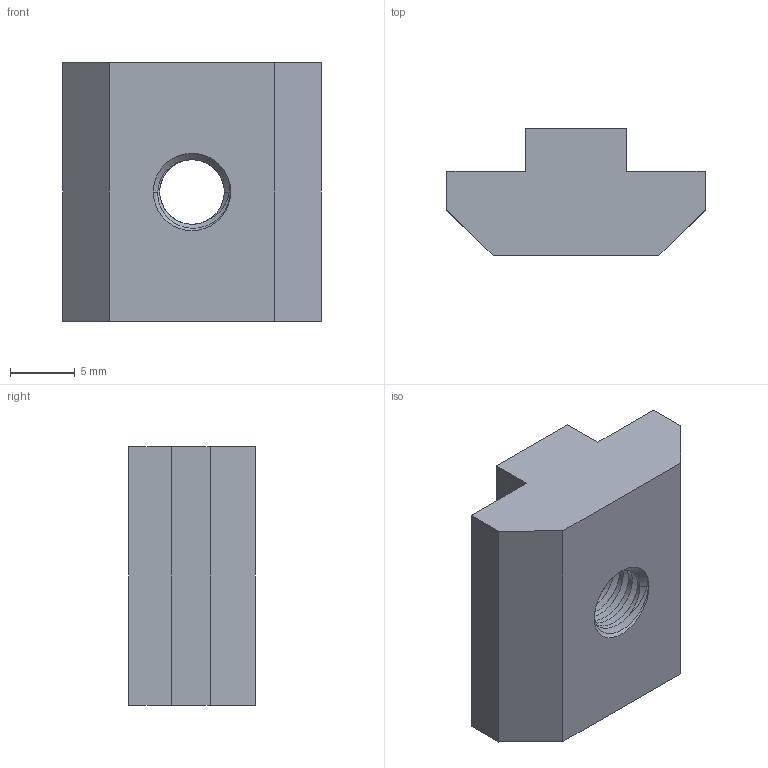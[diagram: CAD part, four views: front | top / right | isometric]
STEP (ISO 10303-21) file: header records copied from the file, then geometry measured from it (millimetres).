
FILE_DESCRIPTION (( 'STEP AP203' ), '1' );
FILE_NAME ('127-CE-SDN-40.STEP', '2015-07-09T08:57:03', ( '' ), ( '' ), 'SwSTEP 2.0', 'SolidWorks 2013', '' );
FILE_SCHEMA (( 'CONFIG_CONTROL_DESIGN' ));
Length unit declared in the file: millimetre
Products named in the file (1): 127-CE-SDN-40
Bounding box: 20 x 9.8 x 20 mm (x, y, z)
Volume: 2646.2 mm3; surface area: 1601.2 mm2
Topology: 1 solids, 1 shells, 40 faces, 109 edges, 71 vertices
Faces by surface type: cylinder 19, plane 12, cone 7, bspline 2
Entity records: 3096 total; most frequent: CARTESIAN_POINT 2134, ORIENTED_EDGE 218, DIRECTION 149, EDGE_CURVE 109, VERTEX_POINT 71, LINE 53, VECTOR 53, AXIS2_PLACEMENT_3D 48
